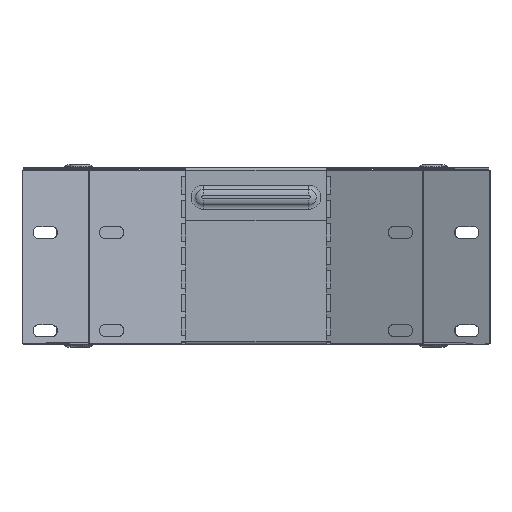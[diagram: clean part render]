
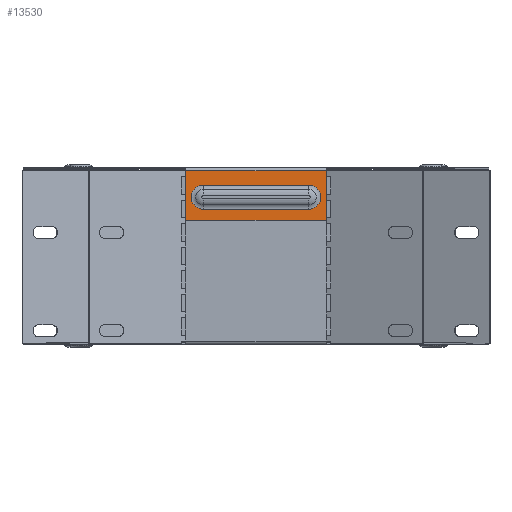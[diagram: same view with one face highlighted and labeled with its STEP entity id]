
A CAD part, top view. The second image highlights one B-rep face of the part: STEP entity #13530.
In plain terms, the highlighted planar face has unit normal (0, 0, 1).
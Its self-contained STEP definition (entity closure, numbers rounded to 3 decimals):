
#10 = ORIENTED_EDGE ( 'NONE', *, *, #3064, .T. ) ;
#482 = DIRECTION ( 'NONE',  ( 0., 1., 0. ) ) ;
#1071 = VERTEX_POINT ( 'NONE', #4525 ) ;
#1278 = DIRECTION ( 'NONE',  ( 1., 0., 0. ) ) ;
#1283 = EDGE_LOOP ( 'NONE', ( #10, #16669, #2911, #3535 ) ) ;
#1637 = VECTOR ( 'NONE', #2934, 1000. ) ;
#2269 = VECTOR ( 'NONE', #2474, 1000. ) ;
#2296 = EDGE_CURVE ( 'NONE', #11725, #19179, #18352, .T. ) ;
#2356 = ORIENTED_EDGE ( 'NONE', *, *, #3374, .F. ) ;
#2474 = DIRECTION ( 'NONE',  ( 1., 0., 0. ) ) ;
#2742 = ORIENTED_EDGE ( 'NONE', *, *, #18671, .T. ) ;
#2911 = ORIENTED_EDGE ( 'NONE', *, *, #2296, .T. ) ;
#2934 = DIRECTION ( 'NONE',  ( 0., 1., 0. ) ) ;
#3064 = EDGE_CURVE ( 'NONE', #10541, #18463, #4261, .T. ) ;
#3374 = EDGE_CURVE ( 'NONE', #10768, #16738, #18812, .T. ) ;
#3468 = DIRECTION ( 'NONE',  ( 0., 1., 0. ) ) ;
#3500 = DIRECTION ( 'NONE',  ( 0., 1., 0. ) ) ;
#3535 = ORIENTED_EDGE ( 'NONE', *, *, #15214, .T. ) ;
#3548 = DIRECTION ( 'NONE',  ( 0., 0., -1. ) ) ;
#3717 = CARTESIAN_POINT ( 'NONE',  ( -40., 70.8, 1.445 ) ) ;
#4261 = LINE ( 'NONE', #9187, #19057 ) ;
#4511 = CIRCLE ( 'NONE', #15761, 6.917 ) ;
#4525 = CARTESIAN_POINT ( 'NONE',  ( 40., 70.8, 1.445 ) ) ;
#4698 = FACE_OUTER_BOUND ( 'NONE', #18555, .T. ) ;
#4890 = CARTESIAN_POINT ( 'NONE',  ( 0., 100.8, 1.445 ) ) ;
#5204 = CARTESIAN_POINT ( 'NONE',  ( 30., 76.983, 1.445 ) ) ;
#6096 = DIRECTION ( 'NONE',  ( 1., 0., 0. ) ) ;
#6267 = EDGE_CURVE ( 'NONE', #10768, #12866, #11521, .T. ) ;
#6567 = VECTOR ( 'NONE', #10216, 1000. ) ;
#6808 = CARTESIAN_POINT ( 'NONE',  ( -30., 83.9, 1.445 ) ) ;
#7345 = AXIS2_PLACEMENT_3D ( 'NONE', #4890, #11371, #3500 ) ;
#7485 = ORIENTED_EDGE ( 'NONE', *, *, #6267, .T. ) ;
#9187 = CARTESIAN_POINT ( 'NONE',  ( 30., 90.817, 1.445 ) ) ;
#10216 = DIRECTION ( 'NONE',  ( 0., -1., 0. ) ) ;
#10541 = VERTEX_POINT ( 'NONE', #11635 ) ;
#10612 = CARTESIAN_POINT ( 'NONE',  ( 40., 70.8, 1.445 ) ) ;
#10620 = CARTESIAN_POINT ( 'NONE',  ( -30., 76.983, 1.445 ) ) ;
#10768 = VERTEX_POINT ( 'NONE', #16963 ) ;
#11211 = CARTESIAN_POINT ( 'NONE',  ( 30., 83.9, 1.445 ) ) ;
#11339 = DIRECTION ( 'NONE',  ( 0., 0., -1. ) ) ;
#11371 = DIRECTION ( 'NONE',  ( 0., 0., -1. ) ) ;
#11521 = LINE ( 'NONE', #3717, #6567 ) ;
#11635 = CARTESIAN_POINT ( 'NONE',  ( -30., 90.817, 1.445 ) ) ;
#11694 = AXIS2_PLACEMENT_3D ( 'NONE', #6808, #3548, #482 ) ;
#11725 = VERTEX_POINT ( 'NONE', #19719 ) ;
#11854 = CARTESIAN_POINT ( 'NONE',  ( 0., 99., 1.445 ) ) ;
#12358 = EDGE_CURVE ( 'NONE', #18463, #11725, #4511, .T. ) ;
#12560 = CARTESIAN_POINT ( 'NONE',  ( -40., 70.8, 1.445 ) ) ;
#12866 = VERTEX_POINT ( 'NONE', #12560 ) ;
#13530 = ADVANCED_FACE ( 'NONE', ( #13590, #4698 ), #14130, .F. ) ;
#13590 = FACE_BOUND ( 'NONE', #1283, .T. ) ;
#14130 = PLANE ( 'NONE',  #7345 ) ;
#15013 = EDGE_CURVE ( 'NONE', #1071, #16738, #16458, .T. ) ;
#15214 = EDGE_CURVE ( 'NONE', #19179, #10541, #20395, .T. ) ;
#15469 = CARTESIAN_POINT ( 'NONE',  ( 30., 90.817, 1.445 ) ) ;
#15761 = AXIS2_PLACEMENT_3D ( 'NONE', #11211, #11339, #3468 ) ;
#16080 = LINE ( 'NONE', #10612, #17549 ) ;
#16458 = LINE ( 'NONE', #20324, #1637 ) ;
#16669 = ORIENTED_EDGE ( 'NONE', *, *, #12358, .T. ) ;
#16738 = VERTEX_POINT ( 'NONE', #20211 ) ;
#16793 = ORIENTED_EDGE ( 'NONE', *, *, #15013, .T. ) ;
#16963 = CARTESIAN_POINT ( 'NONE',  ( -40., 99., 1.445 ) ) ;
#17358 = VECTOR ( 'NONE', #19561, 1000. ) ;
#17549 = VECTOR ( 'NONE', #1278, 1000. ) ;
#18352 = LINE ( 'NONE', #5204, #17358 ) ;
#18463 = VERTEX_POINT ( 'NONE', #15469 ) ;
#18555 = EDGE_LOOP ( 'NONE', ( #2356, #7485, #2742, #16793 ) ) ;
#18671 = EDGE_CURVE ( 'NONE', #12866, #1071, #16080, .T. ) ;
#18812 = LINE ( 'NONE', #11854, #2269 ) ;
#19057 = VECTOR ( 'NONE', #6096, 1000. ) ;
#19179 = VERTEX_POINT ( 'NONE', #10620 ) ;
#19561 = DIRECTION ( 'NONE',  ( -1., 0., 0. ) ) ;
#19719 = CARTESIAN_POINT ( 'NONE',  ( 30., 76.983, 1.445 ) ) ;
#20211 = CARTESIAN_POINT ( 'NONE',  ( 40., 99., 1.445 ) ) ;
#20324 = CARTESIAN_POINT ( 'NONE',  ( 40., 100., 1.445 ) ) ;
#20395 = CIRCLE ( 'NONE', #11694, 6.917 ) ;
